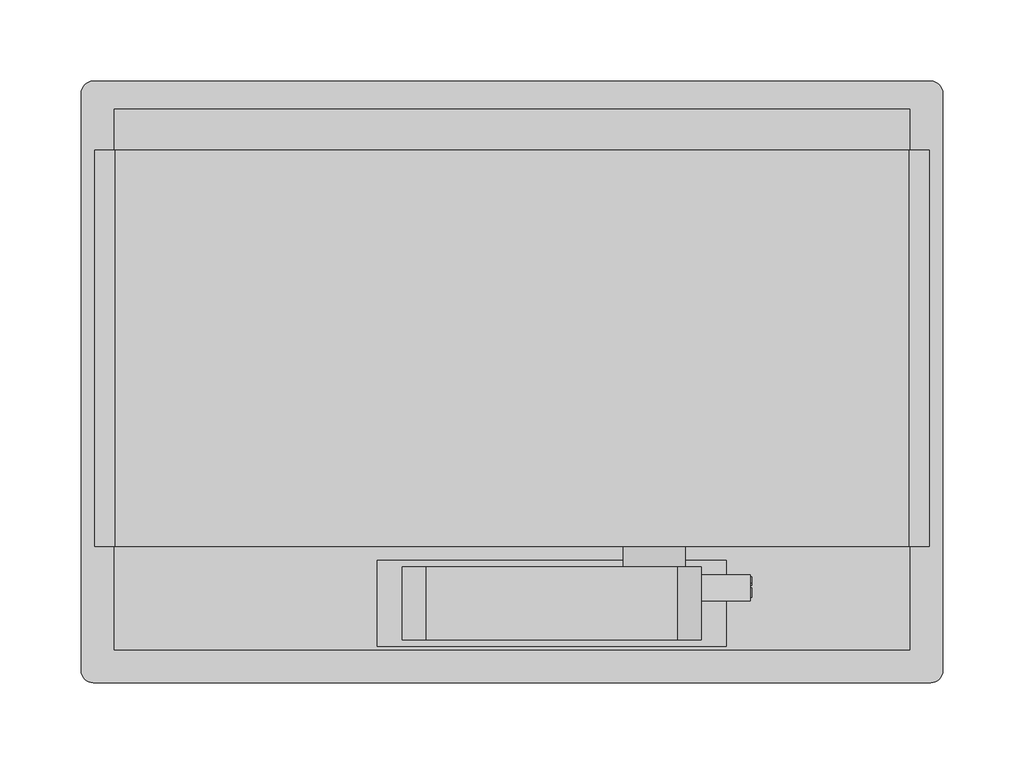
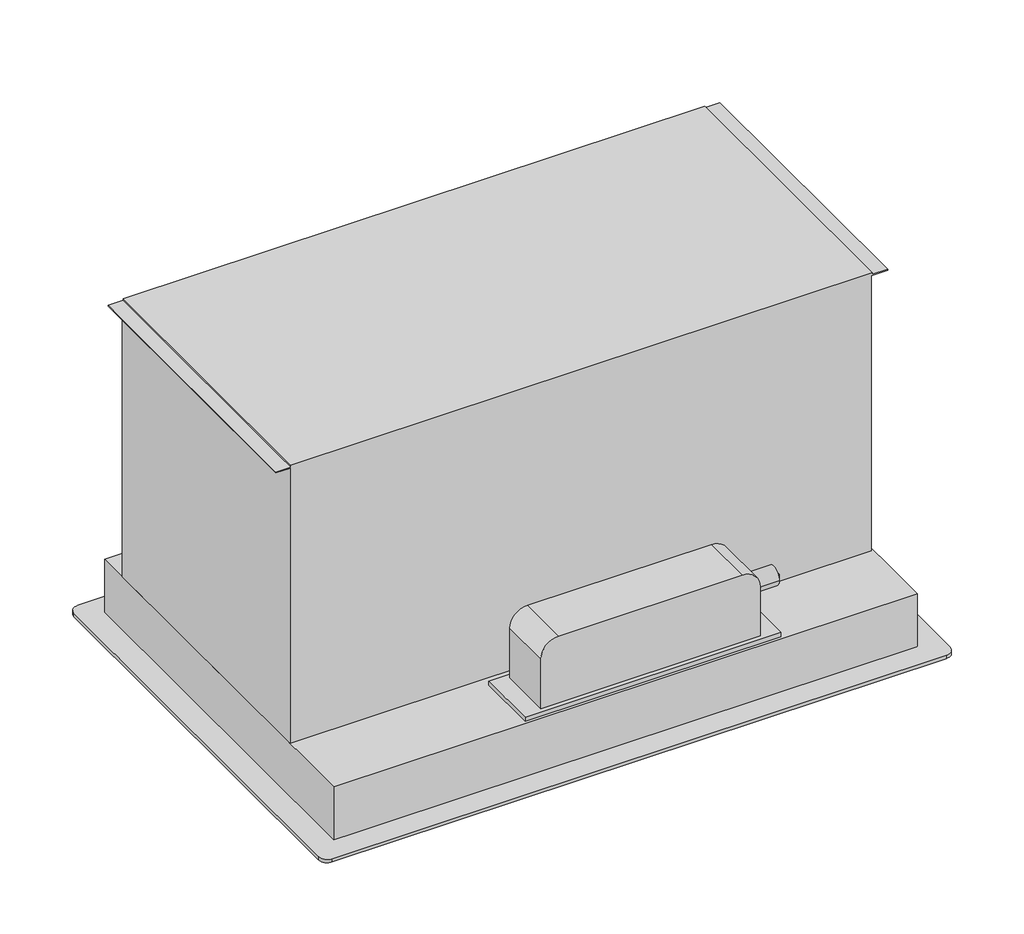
# Not in any storey: 1 proxy.
"""IFC4 building model written with IfcOpenShell, lengths in millimetres."""

import ifcopenshell
import ifcopenshell.guid

model = None  # the IFC model being written
_history = None  # IfcOwnerHistory: only IFC2X3 demands one
_inside = {}  # id of a spatial element -> (the spatial element, [elements in it])
_under = {}  # id of a project, library or spatial element -> (it, [spatial elements below it])
_declared = {}  # id of a project -> (the project, [libraries it declares])
_typed = {}  # id of a type object -> (the type object, [elements of that type])
_made_of = {}  # id of a material, layer set ... -> (it, [elements and type objects made of it])


def new_model(schema):
    """Start an empty IFC model of exactly this schema.

    Asked for "IFC4X3", IfcOpenShell would pick the latest addendum, in which some entities
    have other attributes; the version numbers below select the first issue.
    IFC2X3 requires an IfcOwnerHistory on every rooted entity: one is made here for all.
    """
    global model, _history
    if schema == "IFC4X3":
        model = ifcopenshell.file(schema_version=(4, 3, 0, 0))
    else:
        model = ifcopenshell.file(schema=schema)
    _inside.clear()
    _under.clear()
    _declared.clear()
    _typed.clear()
    _made_of.clear()
    _history = None
    if model.schema == "IFC2X3":
        org = make("IfcOrganization", Name="unknown")
        user = make(
            "IfcPersonAndOrganization",
            ThePerson=make("IfcPerson", FamilyName="unknown"),
            TheOrganization=org,
        )
        app = make(
            "IfcApplication",
            ApplicationDeveloper=org,
            Version="unknown",
            ApplicationFullName="unknown",
            ApplicationIdentifier="unknown",
        )
        _history = make(
            "IfcOwnerHistory",
            OwningUser=user,
            OwningApplication=app,
            ChangeAction="ADDED",
            CreationDate=0,
        )
    return model


def make(cls, **values):
    """One entity of the class cls with the attributes given. An attribute that is None is left unset."""
    return model.create_entity(
        cls, **{name: value for name, value in values.items() if value is not None}
    )


def rooted(cls, **values):
    """An entity with a GlobalId (a new one), such as an element, a storey or a relation."""
    return make(cls, GlobalId=ifcopenshell.guid.new(), OwnerHistory=_history, **values)


def si_unit(unit_type, name, prefix=None):
    """IfcSIUnit, for example si_unit("LENGTHUNIT", "METRE", prefix="MILLI")."""
    return make("IfcSIUnit", UnitType=unit_type, Prefix=prefix, Name=name)


def assignment(units):
    """IfcUnitAssignment: the units of a project."""
    return None if units is None else make("IfcUnitAssignment", Units=units)


def point(xyz):
    """IfcCartesianPoint."""
    return None if xyz is None else make("IfcCartesianPoint", Coordinates=xyz)


def direction(xyz):
    """IfcDirection."""
    return None if xyz is None else make("IfcDirection", DirectionRatios=xyz)


def frame(location, z_axis=None, x_axis=None):
    """IfcAxis2Placement3D, a coordinate frame: its origin and axes. An axis left out is left unset."""
    return make(
        "IfcAxis2Placement3D",
        Location=point(location),
        Axis=direction(z_axis),
        RefDirection=direction(x_axis),
    )


def frame_2d(location, x_axis=None):
    """IfcAxis2Placement2D, a coordinate frame in the plane: its origin and x axis."""
    return make(
        "IfcAxis2Placement2D", Location=point(location), RefDirection=direction(x_axis)
    )


def origin():
    """The frame at (0, 0, 0) with its axes left unset."""
    return frame((0.0, 0.0, 0.0))


def origin_with_axes():
    """The frame at (0, 0, 0) with the z axis (0, 0, 1) and the x axis (1, 0, 0) written out."""
    return frame((0.0, 0.0, 0.0), z_axis=(0.0, 0.0, 1.0), x_axis=(1.0, 0.0, 0.0))


def place(relative_to, where):
    """IfcLocalPlacement: puts the frame where relative to a parent placement (None: the world)."""
    return make(
        "IfcLocalPlacement", PlacementRelTo=relative_to, RelativePlacement=where
    )


def context(
    kind, dimensions, precision=None, world=None, true_north=None, identifier=None
):
    """IfcGeometricRepresentationContext, for example the 3D "Model" context."""
    return make(
        "IfcGeometricRepresentationContext",
        ContextIdentifier=identifier,
        ContextType=kind,
        CoordinateSpaceDimension=dimensions,
        Precision=precision,
        WorldCoordinateSystem=world,
        TrueNorth=true_north,
    )


def project(units=None, contexts=None):
    """IfcProject with its units and contexts."""
    return rooted(
        "IfcProject",
        Name="project",
        RepresentationContexts=contexts,
        UnitsInContext=assignment(units),
    )


def spatial(cls, under=None, at=None, **own):
    """A site, building, storey or space (cls), placed at a placement, below another one or the project."""
    s = rooted(cls, ObjectPlacement=at, **own)
    if under is not None:
        _under.setdefault(under.id(), (under, []))[1].append(s)
    return s


def polyline(points):
    """IfcPolyline through the points."""
    return make("IfcPolyline", Points=[point(p) for p in points])


def circle_curve(where, radius):
    """IfcCircle in the frame where."""
    return make("IfcCircle", Position=where, Radius=radius)


def ellipse_curve(where, semi_axis1, semi_axis2):
    """IfcEllipse in the frame where."""
    return make(
        "IfcEllipse", Position=where, SemiAxis1=semi_axis1, SemiAxis2=semi_axis2
    )


def trimmed(basis, trim1, trim2, sense, master):
    """IfcTrimmedCurve: the piece of a basis curve between two trims."""
    return make(
        "IfcTrimmedCurve",
        BasisCurve=basis,
        Trim1=trim1,
        Trim2=trim2,
        SenseAgreement=sense,
        MasterRepresentation=master,
    )


def segment(curve, same_sense, transition):
    """IfcCompositeCurveSegment."""
    return make(
        "IfcCompositeCurveSegment",
        Transition=transition,
        SameSense=same_sense,
        ParentCurve=curve,
    )


def composite_curve(segments, self_intersect=None):
    """IfcCompositeCurve: segments joined end to end."""
    return make("IfcCompositeCurve", Segments=segments, SelfIntersect=self_intersect)


def outline(outer, holes=None, kind="AREA"):
    """IfcArbitraryClosedProfileDef: a profile drawn as a closed curve; with holes, ...WithVoids."""
    if holes is None:
        return make("IfcArbitraryClosedProfileDef", ProfileType=kind, OuterCurve=outer)
    return make(
        "IfcArbitraryProfileDefWithVoids",
        ProfileType=kind,
        OuterCurve=outer,
        InnerCurves=holes,
    )


def extrude(swept, where, along, depth):
    """IfcExtrudedAreaSolid: the profile swept, set in the frame where, extruded along a direction by depth."""
    return make(
        "IfcExtrudedAreaSolid",
        SweptArea=swept,
        Position=where,
        ExtrudedDirection=direction(along),
        Depth=depth,
    )


def faces_of(points, faces, orient=None, outer=None):
    """IfcFace entities. A face is a list of loops; a loop is a list of indices into points, from 0.

    orient and outer hold one flag for each loop. By default every Orientation is true, the
    first loop of a face is its IfcFaceOuterBound and the others are IfcFaceBound.
    """
    made = []
    for i, loops in enumerate(faces):
        bounds = []
        for j, loop in enumerate(loops):
            is_outer = j == 0 if outer is None else outer[i][j]
            bounds.append(
                make(
                    "IfcFaceOuterBound" if is_outer else "IfcFaceBound",
                    Bound=make("IfcPolyLoop", Polygon=[points[k] for k in loop]),
                    Orientation=True if orient is None else orient[i][j],
                )
            )
        made.append(make("IfcFace", Bounds=bounds))
    return made


def faceted_brep(points, faces, orient=None, outer=None, voids=None):
    """IfcFacetedBrep: a solid bounded by flat faces; with voids (closed shells), ...WithVoids."""
    shared = [point(p) for p in points]
    hull = make("IfcClosedShell", CfsFaces=faces_of(shared, faces, orient, outer))
    if voids is None:
        return make("IfcFacetedBrep", Outer=hull)
    return make(
        "IfcFacetedBrepWithVoids",
        Outer=hull,
        Voids=[
            make(cls, CfsFaces=faces_of(shared, fs, o, b)) for cls, fs, o, b in voids
        ],
    )


def shape(context_of_items, identifier, shape_type, items):
    """IfcShapeRepresentation: the items that make up one representation, for example the "Body"."""
    return make(
        "IfcShapeRepresentation",
        ContextOfItems=context_of_items,
        RepresentationIdentifier=identifier,
        RepresentationType=shape_type,
        Items=items,
    )


def source(mapping_origin, context_of_items, identifier, shape_type, items):
    """IfcRepresentationMap: a shape defined once, which mapped items show again and again."""
    return make(
        "IfcRepresentationMap",
        MappingOrigin=mapping_origin,
        MappedRepresentation=shape(context_of_items, identifier, shape_type, items),
    )


def transform(
    local_origin,
    x_axis=None,
    y_axis=None,
    z_axis=None,
    scale=None,
    scale2=None,
    scale3=None,
    uniform=True,
):
    """IfcCartesianTransformationOperator3D, or its non-uniform kind. x_axis, y_axis, z_axis: its Axis1, 2, 3."""
    if uniform:
        return make(
            "IfcCartesianTransformationOperator3D",
            Axis1=direction(x_axis),
            Axis2=direction(y_axis),
            LocalOrigin=point(local_origin),
            Scale=scale,
            Axis3=direction(z_axis),
        )
    return make(
        "IfcCartesianTransformationOperator3DnonUniform",
        Axis1=direction(x_axis),
        Axis2=direction(y_axis),
        LocalOrigin=point(local_origin),
        Scale=scale,
        Axis3=direction(z_axis),
        Scale2=scale2,
        Scale3=scale3,
    )


def mapped(mapping_source, mapping_target):
    """IfcMappedItem: shows the shape of a source again, moved by a transform."""
    return make(
        "IfcMappedItem", MappingSource=mapping_source, MappingTarget=mapping_target
    )


def made_of(thing, what):
    """Note that an element or type object is made of a material, layer set ...; save() writes the relation."""
    if what is not None:
        _made_of.setdefault(what.id(), (what, []))[1].append(thing)
    return thing


def element(
    cls,
    number,
    at=None,
    inside=None,
    cuts=None,
    type_object=None,
    material=None,
    context=None,
    identifier="Body",
    shape_type=None,
    held_by="IfcProductDefinitionShape",
    body=None,
    shapes=None,
    **own,
):
    """One element of the class cls, such as IfcWall. Its Tag is "e" and its number.

    at: its placement. inside: the storey or other place that contains it. cuts: it is an
    opening in that element (IfcRelVoidsElement). A single representation is given by context,
    identifier, shape_type and body (its items); several are given by shapes. held_by: the class
    of the entity that holds the representations. save() writes the other relations.
    """
    e = rooted(cls, Tag="e%d" % number, ObjectPlacement=at, **own)
    if body is not None:
        shapes = [shape(context, identifier, shape_type, body)]
    if shapes is not None:
        e.Representation = make(held_by, Representations=shapes)
    if inside is not None:
        _inside.setdefault(inside.id(), (inside, []))[1].append(e)
    if cuts is not None:
        rooted(
            "IfcRelVoidsElement", RelatingBuildingElement=cuts, RelatedOpeningElement=e
        )
    if type_object is not None:
        _typed.setdefault(type_object.id(), (type_object, []))[1].append(e)
    return made_of(e, material)


def aggregate(whole, parts):
    """IfcRelAggregates: a whole, such as a stair, and the parts it consists of."""
    return rooted("IfcRelAggregates", RelatingObject=whole, RelatedObjects=parts)


def save(model, path):
    """Write the relations noted so far, then the file.

    IfcRelAggregates (storeys below a building ...), IfcRelContainedInSpatialStructure (elements
    in a storey), IfcRelDefinesByType, IfcRelAssociatesMaterial and IfcRelDeclares: one each for
    every whole, place, type object, material and project.
    """
    for whole, parts in _under.values():
        aggregate(whole, parts)
    for where, things in _inside.values():
        rooted(
            "IfcRelContainedInSpatialStructure",
            RelatedElements=things,
            RelatingStructure=where,
        )
    for kind, things in _typed.values():
        rooted("IfcRelDefinesByType", RelatedObjects=things, RelatingType=kind)
    for what, things in _made_of.values():
        rooted("IfcRelAssociatesMaterial", RelatedObjects=things, RelatingMaterial=what)
    for by, libraries in _declared.values():
        rooted("IfcRelDeclares", RelatingContext=by, RelatedDefinitions=libraries)
    model.write(path)


def plane_surface(at):
    """IfcPlane: the flat surface through the origin of the frame at, square to its z axis."""
    return make("IfcPlane", Position=at)


def cylinder_surface(at, radius):
    """IfcCylindricalSurface: all points at the distance radius from the z axis of the frame at."""
    return make("IfcCylindricalSurface", Position=at, Radius=radius)


def revolved_surface(curve, axis_point, axis_direction):
    """IfcSurfaceOfRevolution: the curve turned about the line through axis_point along axis_direction."""
    return make(
        "IfcSurfaceOfRevolution",
        SweptCurve=make("IfcArbitraryOpenProfileDef", ProfileType="CURVE", Curve=curve),
        AxisPosition=make("IfcAxis1Placement", Location=point(axis_point), Axis=direction(axis_direction)),
    )


def extruded_surface(curve, direction_of_extrusion, depth):
    """IfcSurfaceOfLinearExtrusion: the curve pushed along a direction by depth."""
    return make(
        "IfcSurfaceOfLinearExtrusion",
        SweptCurve=make("IfcArbitraryOpenProfileDef", ProfileType="CURVE", Curve=curve),
        ExtrudedDirection=direction(direction_of_extrusion),
        Depth=depth,
    )


def advanced_brep(points, edges, surfaces, faces):
    """IfcAdvancedBrep: a solid bounded by faces that lie on surfaces and meet in shared edges.

    An edge is (start, end): straight between two places in points (the first is 0);
    or (start, end, curve); or (start, end, curve, False) where it runs against its curve.
    A face is (place in surfaces, loops), or (place, loops, False) where it looks against
    its surface's normal. A loop lists edges by number (the first is 1), with a minus sign
    where the edge is run from its end to its start. The first loop is the outer one.
    """
    corners = [point(p) for p in points]
    vertices = [make("IfcVertexPoint", VertexGeometry=c) for c in corners]
    made = []
    for start, end, *more in edges:
        made.append(
            make(
                "IfcEdgeCurve",
                EdgeStart=vertices[start],
                EdgeEnd=vertices[end],
                EdgeGeometry=more[0] if more else make("IfcPolyline", Points=[corners[start], corners[end]]),
                SameSense=more[1] if len(more) > 1 else True,
            )
        )
    hull = []
    for where, loops, *sense in faces:
        bounds = []
        for j, loop in enumerate(loops):
            ring = [make("IfcOrientedEdge", EdgeElement=made[abs(k) - 1], Orientation=k > 0) for k in loop]
            bounds.append(
                make(
                    "IfcFaceOuterBound" if j == 0 else "IfcFaceBound",
                    Bound=make("IfcEdgeLoop", EdgeList=ring),
                    Orientation=True,
                )
            )
        hull.append(make("IfcAdvancedFace", Bounds=bounds, FaceSurface=surfaces[where], SameSense=sense[0] if sense else True))
    return make("IfcAdvancedBrep", Outer=make("IfcClosedShell", CfsFaces=hull))


def specialty_equipment_5ccbf462(model_context):
    return source(origin(), model_context, "Body", "SolidModel", [
        extrude(outline(polyline([(-225.7941321, -333.5484139), (-224.8261321, -333.5484139), (-224.8261321, -328.1964139), (-225.7941321, -328.1964139), (-225.7941321, -326.8524139), (-222.2741321, -326.8524139), (-222.2741321, -328.1964139), (-223.2341321, -328.1964139), (-223.2341321, -331.5995386), (-219.6581321, -326.8524139), (-216.0661321, -331.6676362), (-216.0661321, -328.1964139), (-217.0501321, -328.1964139), (-217.0501321, -326.8524139), (-210.6661321, -326.8524139), (-210.6661321, -328.1964139), (-211.6821321, -328.1964139), (-211.6821321, -333.5484139), (-210.6661321, -333.5484139), (-210.6661321, -334.8524139), (-215.5381321, -334.8524139), (-217.8741321, -331.8524139), (-220.2181321, -334.8524139), (-225.7941321, -334.8524139), (-225.7941321, -333.5484139)])), frame((0.0, 0.0, 1.5), z_axis=(0.0, 0.0, 1.0), x_axis=(1.0, 0.0, 0.0)), (0.0, 0.0, 1.0), 1.0),
        extrude(outline(polyline([(-193.3301321, -333.5484139), (-192.3701321, -333.5484139), (-192.3701321, -328.1964139), (-193.3301321, -328.1964139), (-193.3301321, -326.8524139), (-186.8421321, -326.8524139), (-186.8421321, -328.1964139), (-187.8261321, -328.1964139), (-187.8261321, -334.8524139), (-193.3301321, -334.8524139), (-193.3301321, -333.5484139)])), frame((0.0, 0.0, 1.5), z_axis=(0.0, 0.0, 1.0), x_axis=(1.0, 0.0, 0.0)), (0.0, 0.0, 1.0), 1.0),
        extrude(outline(polyline([(-207.8741321, -334.3804139), (-207.2661321, -333.0844139), (-204.5541321, -334.3484139), (-205.1541321, -335.6444139), (-207.8741321, -334.3804139)])), frame((0.0, 0.0, 1.5), z_axis=(0.0, 0.0, 1.0), x_axis=(1.0, 0.0, 0.0)), (0.0, 0.0, 1.0), 1.0),
        extrude(outline(polyline([(-209.8501321, -332.9084139), (-209.8501321, -331.4764139), (-208.8981321, -331.4764139), (-208.8981321, -328.1964139), (-209.8501321, -328.1964139), (-209.8501321, -326.8524139), (-203.5381321, -326.8524139), (-203.5381321, -328.1964139), (-204.4661321, -328.1964139), (-204.4661321, -332.9084139), (-209.8501321, -332.9084139)])), frame((0.0, 0.0, 1.5), z_axis=(0.0, 0.0, 1.0), x_axis=(1.0, 0.0, 0.0)), (0.0, 0.0, 1.0), 1.0),
        advanced_brep(
        [(-199.1301321, -328.7484139, 2.5), (-198.2341321, -327.8524139, 2.5), (-196.3301321, -328.7484139, 2.5), (-193.9141321, -328.7484139, 2.5), (-200.8901321, -326.8524139, 2.5), (-203.0901321, -329.5564139, 2.5), (-193.7781321, -329.5564139, 2.5), (-199.1301321, -329.5564139, 2.5), (-199.1301321, -330.5804139, 2.5), (-197.7621321, -330.5804139, 2.5), (-197.7621321, -331.4524139, 2.5), (-199.1301321, -331.4524139, 2.5), (-199.1301321, -328.7484139, 1.5), (-199.1301321, -329.5564139, 1.5), (-193.7781321, -329.5564139, 1.5), (-203.0901321, -329.5564139, 1.5), (-200.8901321, -326.8524139, 1.5), (-193.9141321, -328.7484139, 1.5), (-196.3301321, -328.7484139, 1.5), (-198.2341321, -327.8524139, 1.5), (-199.1301321, -330.5804139, 1.5), (-199.1301321, -331.4524139, 1.5), (-197.7621321, -331.4524139, 1.5), (-197.7621321, -330.5804139, 1.5)],
        [
            (0, 1, circle_curve(frame((-198.2341321, -328.7484139, 2.5), z_axis=(0.0, 0.0, -1.0), x_axis=(1.0, 0.0, 0.0)), 0.896)),
            (1, 2, circle_curve(frame((-197.8430733, -329.4924139, 2.5), z_axis=(0.0, 0.0, -1.0), x_axis=(1.0, 0.0, 0.0)), 1.6859795)),
            (2, 3),
            (3, 4, circle_curve(frame((-198.5273385, -331.9404139, 2.5), z_axis=(0.0, 0.0, 1.0), x_axis=(1.0, 0.0, 0.0)), 5.6098607)),
            (4, 5, circle_curve(frame((-199.9940885, -329.8284139, 2.5), z_axis=(0.0, 0.0, 1.0), x_axis=(1.0, 0.0, 0.0)), 3.1079688)),
            (5, 6, ellipse_curve(frame((-198.4341321, -329.5564139, 2.5), z_axis=(0.0, 0.0, 1.0), x_axis=(-1.0, 0.0, 0.0)), 4.656, 3.848)),
            (6, 7),
            (7, 0),
            (8, 9),
            (9, 10),
            (10, 11, circle_curve(frame((-198.4461321, -331.4524139, 2.5), z_axis=(0.0, 0.0, -1.0), x_axis=(1.0, 0.0, 0.0)), 0.684)),
            (11, 8),
            (12, 13),
            (13, 14),
            (14, 15, ellipse_curve(frame((-198.4341321, -329.5564139, 1.5), z_axis=(0.0, 0.0, -1.0), x_axis=(-1.0, 0.0, 0.0)), 4.656, 3.848)),
            (15, 16, circle_curve(frame((-199.9940885, -329.8284139, 1.5), z_axis=(0.0, 0.0, -1.0), x_axis=(1.0, 0.0, 0.0)), 3.1079688)),
            (16, 17, circle_curve(frame((-198.5273385, -331.9404139, 1.5), z_axis=(0.0, 0.0, -1.0), x_axis=(1.0, 0.0, 0.0)), 5.6098607)),
            (17, 18),
            (18, 19, circle_curve(frame((-197.8430733, -329.4924139, 1.5), z_axis=(0.0, 0.0, 1.0), x_axis=(1.0, 0.0, 0.0)), 1.6859795)),
            (19, 12, circle_curve(frame((-198.2341321, -328.7484139, 1.5), z_axis=(0.0, 0.0, 1.0), x_axis=(1.0, 0.0, 0.0)), 0.896)),
            (20, 21),
            (21, 22, circle_curve(frame((-198.4461321, -331.4524139, 1.5), z_axis=(0.0, 0.0, 1.0), x_axis=(1.0, 0.0, 0.0)), 0.684)),
            (22, 23),
            (23, 20),
            (7, 13),
            (12, 0),
            (6, 14),
            (2, 18),
            (17, 3),
            (5, 15),
            (1, 19),
            (4, 16),
            (11, 21),
            (20, 8),
            (10, 22),
            (9, 23),
        ],
        [
            plane_surface(frame((-197.3381321, -328.7484139, 2.5), z_axis=(0.0, 0.0, 1.0), x_axis=(0.0, -1.0, 0.0))),
            plane_surface(frame((-197.3381321, -328.7484139, 1.5), z_axis=(0.0, 0.0, -1.0), x_axis=(0.0, 1.0, 0.0))),
            plane_surface(frame((-199.1301321, -329.5564139, 2.5), z_axis=(1.0, 0.0, 0.0), x_axis=(0.0, 0.0, -1.0))),
            plane_surface(frame((-193.7781321, -329.5564139, 2.5), z_axis=(0.0, 1.0, 0.0), x_axis=(0.0, 0.0, -1.0))),
            plane_surface(frame((-196.3301321, -328.7484139, 2.5), z_axis=(0.0, -1.0, 0.0), x_axis=(0.0, 0.0, -1.0))),
            extruded_surface(trimmed(ellipse_curve(frame((-198.4341321, -329.5564139, 0.5), z_axis=(0.0, 0.0, 1.0), x_axis=(-1.0, 0.0, 0.0)), 4.656, 3.848), [point((-203.0901321, -329.5564139, 0.5))], [point((-193.7781321, -329.5564139, 0.5))], True, "CARTESIAN"), (0.0, 0.0, 1.0), 1.0),
            revolved_surface(polyline([(-196.15709379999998, -329.4924139, 1.5), (-196.15709379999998, -329.4924139, 2.5)]), (-197.8430733, -329.4924139, 1.5), (0.0, 0.0, -1.0)),
            revolved_surface(polyline([(-197.33813210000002, -328.7484139, 1.5), (-197.33813210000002, -328.7484139, 2.5)]), (-198.2341321, -328.7484139, 1.5), (0.0, 0.0, -1.0)),
            cylinder_surface(frame((-199.9940885, -329.8284139, 1.5), z_axis=(0.0, 0.0, 1.0), x_axis=(1.0, 0.0, 0.0)), 3.1079688),
            cylinder_surface(frame((-198.5273385, -331.9404139, 1.5), z_axis=(0.0, 0.0, 1.0), x_axis=(1.0, 0.0, 0.0)), 5.6098607),
            plane_surface(frame((-199.1301321, -331.4524139, 2.5), z_axis=(1.0, 0.0, 0.0), x_axis=(0.0, 0.0, -1.0))),
            revolved_surface(polyline([(-197.7621321, -331.4524139, 1.5), (-197.7621321, -331.4524139, 2.5)]), (-198.4461321, -331.4524139, 1.5), (0.0, 0.0, -1.0)),
            plane_surface(frame((-197.7621321, -330.5804139, 2.5), z_axis=(-1.0, 0.0, 0.0), x_axis=(0.0, 0.0, -1.0))),
            plane_surface(frame((-199.1301321, -330.5804139, 2.5), z_axis=(0.0, -1.0, 0.0), x_axis=(0.0, 0.0, -1.0))),
        ],
        [
            (0, [[1, 2, 3, 4, 5, 6, 7, 8], [9, 10, 11, 12]]),
            (1, [[13, 14, 15, 16, 17, 18, 19, 20], [21, 22, 23, 24]]),
            (2, [[-8, 25, -13, 26]]),
            (3, [[-7, 27, -14, -25]]),
            (4, [[-3, 28, -18, 29]]),
            (5, [[-6, 30, -15, -27]]),
            (6, [[-2, 31, -19, -28]]),
            (7, [[-1, -26, -20, -31]]),
            (8, [[-5, 32, -16, -30]]),
            (9, [[-4, -29, -17, -32]]),
            (10, [[-12, 33, -21, 34]]),
            (11, [[-11, 35, -22, -33]]),
            (12, [[-10, 36, -23, -35]]),
            (13, [[-9, -34, -24, -36]]),
        ],
    ),
        advanced_brep(
        [(-182.4341321, -328.7484139, 2.5), (-181.5381321, -327.8524139, 2.5), (-179.6341321, -328.7484139, 2.5), (-177.2181321, -328.7484139, 2.5), (-184.1941321, -326.8524139, 2.5), (-186.3941321, -329.5564139, 2.5), (-177.0821321, -329.5564139, 2.5), (-182.4341321, -329.5564139, 2.5), (-182.4341321, -330.5804139, 2.5), (-181.0661321, -330.5804139, 2.5), (-181.0661321, -331.4524139, 2.5), (-182.4341321, -331.4524139, 2.5), (-182.4341321, -328.7484139, 1.5), (-182.4341321, -329.5564139, 1.5), (-177.0821321, -329.5564139, 1.5), (-186.3941321, -329.5564139, 1.5), (-184.1941321, -326.8524139, 1.5), (-177.2181321, -328.7484139, 1.5), (-179.6341321, -328.7484139, 1.5), (-181.5381321, -327.8524139, 1.5), (-182.4341321, -330.5804139, 1.5), (-182.4341321, -331.4524139, 1.5), (-181.0661321, -331.4524139, 1.5), (-181.0661321, -330.5804139, 1.5)],
        [
            (0, 1, circle_curve(frame((-181.5381321, -328.7484139, 2.5), z_axis=(0.0, 0.0, -1.0), x_axis=(1.0, 0.0, 0.0)), 0.896)),
            (1, 2, circle_curve(frame((-181.1470733, -329.4924139, 2.5), z_axis=(0.0, 0.0, -1.0), x_axis=(1.0, 0.0, 0.0)), 1.6859795)),
            (2, 3),
            (3, 4, circle_curve(frame((-181.8313385, -331.9404139, 2.5), z_axis=(0.0, 0.0, 1.0), x_axis=(1.0, 0.0, 0.0)), 5.6098607)),
            (4, 5, circle_curve(frame((-183.2980885, -329.8284139, 2.5), z_axis=(0.0, 0.0, 1.0), x_axis=(1.0, 0.0, 0.0)), 3.1079688)),
            (5, 6, ellipse_curve(frame((-181.7381321, -329.5564139, 2.5), z_axis=(0.0, 0.0, 1.0), x_axis=(-1.0, 0.0, 0.0)), 4.656, 3.848)),
            (6, 7),
            (7, 0),
            (8, 9),
            (9, 10),
            (10, 11, circle_curve(frame((-181.7501321, -331.4524139, 2.5), z_axis=(0.0, 0.0, -1.0), x_axis=(1.0, 0.0, 0.0)), 0.684)),
            (11, 8),
            (12, 13),
            (13, 14),
            (14, 15, ellipse_curve(frame((-181.7381321, -329.5564139, 1.5), z_axis=(0.0, 0.0, -1.0), x_axis=(-1.0, 0.0, 0.0)), 4.656, 3.848)),
            (15, 16, circle_curve(frame((-183.2980885, -329.8284139, 1.5), z_axis=(0.0, 0.0, -1.0), x_axis=(1.0, 0.0, 0.0)), 3.1079688)),
            (16, 17, circle_curve(frame((-181.8313385, -331.9404139, 1.5), z_axis=(0.0, 0.0, -1.0), x_axis=(1.0, 0.0, 0.0)), 5.6098607)),
            (17, 18),
            (18, 19, circle_curve(frame((-181.1470733, -329.4924139, 1.5), z_axis=(0.0, 0.0, 1.0), x_axis=(1.0, 0.0, 0.0)), 1.6859795)),
            (19, 12, circle_curve(frame((-181.5381321, -328.7484139, 1.5), z_axis=(0.0, 0.0, 1.0), x_axis=(1.0, 0.0, 0.0)), 0.896)),
            (20, 21),
            (21, 22, circle_curve(frame((-181.7501321, -331.4524139, 1.5), z_axis=(0.0, 0.0, 1.0), x_axis=(1.0, 0.0, 0.0)), 0.684)),
            (22, 23),
            (23, 20),
            (7, 13),
            (12, 0),
            (6, 14),
            (2, 18),
            (17, 3),
            (5, 15),
            (1, 19),
            (4, 16),
            (11, 21),
            (20, 8),
            (10, 22),
            (9, 23),
        ],
        [
            plane_surface(frame((-180.6421321, -328.7484139, 2.5), z_axis=(0.0, 0.0, 1.0), x_axis=(0.0, -1.0, 0.0))),
            plane_surface(frame((-180.6421321, -328.7484139, 1.5), z_axis=(0.0, 0.0, -1.0), x_axis=(0.0, 1.0, 0.0))),
            plane_surface(frame((-182.4341321, -329.5564139, 2.5), z_axis=(1.0, 0.0, 0.0), x_axis=(0.0, 0.0, -1.0))),
            plane_surface(frame((-177.0821321, -329.5564139, 2.5), z_axis=(0.0, 1.0, 0.0), x_axis=(0.0, 0.0, -1.0))),
            plane_surface(frame((-179.6341321, -328.7484139, 2.5), z_axis=(0.0, -1.0, 0.0), x_axis=(0.0, 0.0, -1.0))),
            extruded_surface(trimmed(ellipse_curve(frame((-181.7381321, -329.5564139, 0.5), z_axis=(0.0, 0.0, 1.0), x_axis=(-1.0, 0.0, 0.0)), 4.656, 3.848), [point((-186.3941321, -329.5564139, 0.5))], [point((-177.0821321, -329.5564139, 0.5))], True, "CARTESIAN"), (0.0, 0.0, 1.0), 1.0),
            revolved_surface(polyline([(-179.4610938, -329.4924139, 1.5), (-179.4610938, -329.4924139, 2.5)]), (-181.1470733, -329.4924139, 1.5), (0.0, 0.0, -1.0)),
            revolved_surface(polyline([(-180.64213210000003, -328.7484139, 1.5), (-180.64213210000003, -328.7484139, 2.5)]), (-181.5381321, -328.7484139, 1.5), (0.0, 0.0, -1.0)),
            cylinder_surface(frame((-183.2980885, -329.8284139, 1.5), z_axis=(0.0, 0.0, 1.0), x_axis=(1.0, 0.0, 0.0)), 3.1079688),
            cylinder_surface(frame((-181.8313385, -331.9404139, 1.5), z_axis=(0.0, 0.0, 1.0), x_axis=(1.0, 0.0, 0.0)), 5.6098607),
            plane_surface(frame((-182.4341321, -331.4524139, 2.5), z_axis=(1.0, 0.0, 0.0), x_axis=(0.0, 0.0, -1.0))),
            revolved_surface(polyline([(-181.0661321, -331.4524139, 1.5), (-181.0661321, -331.4524139, 2.5)]), (-181.7501321, -331.4524139, 1.5), (0.0, 0.0, -1.0)),
            plane_surface(frame((-181.0661321, -330.5804139, 2.5), z_axis=(-1.0, 0.0, 0.0), x_axis=(0.0, 0.0, -1.0))),
            plane_surface(frame((-182.4341321, -330.5804139, 2.5), z_axis=(0.0, -1.0, 0.0), x_axis=(0.0, 0.0, -1.0))),
        ],
        [
            (0, [[1, 2, 3, 4, 5, 6, 7, 8], [9, 10, 11, 12]]),
            (1, [[13, 14, 15, 16, 17, 18, 19, 20], [21, 22, 23, 24]]),
            (2, [[-8, 25, -13, 26]]),
            (3, [[-7, 27, -14, -25]]),
            (4, [[-3, 28, -18, 29]]),
            (5, [[-6, 30, -15, -27]]),
            (6, [[-2, 31, -19, -28]]),
            (7, [[-1, -26, -20, -31]]),
            (8, [[-5, 32, -16, -30]]),
            (9, [[-4, -29, -17, -32]]),
            (10, [[-12, 33, -21, 34]]),
            (11, [[-11, 35, -22, -33]]),
            (12, [[-10, 36, -23, -35]]),
            (13, [[-9, -34, -24, -36]]),
        ],
    ),
        extrude(outline(polyline([(296.5, 244.25), (296.5, -244.25), (295.0, -244.25), (295.0, -256.9500122), (294.2000122, -256.9500122), (294.2000122, -245.0), (50.0, -245.0), (50.0, 243.5), (294.2000122, 243.5), (294.2000122, 257.0), (295.0, 257.0), (295.0, 244.25), (296.5, 244.25)])), frame((0.0, -286.6999947, 0.0), z_axis=(0.0, 1.0, 0.0), x_axis=(0.0, 0.0, 1.0)), (0.0, 0.0, 1.0), 244.0999947),
        extrude(outline(composite_curve([segment(polyline([(112.6984177, 101.6984177), (112.6984177, -52.7015762)]), True, "CONTINUOUS"), segment(trimmed(circle_curve(frame_2d((97.6999969, -52.7015762)), 14.9984207), [point((112.6984177, -52.7015762))], [point((97.6999969, -67.6999969))], False, "CARTESIAN"), True, "CONTINUOUS"), segment(polyline([(97.6999969, -67.6999969), (53.7, -67.6999969), (53.7, 116.6984177), (97.6984177, 116.6984177)]), True, "CONTINUOUS"), segment(trimmed(circle_curve(frame_2d((97.6984177, 101.6984177)), 15.0), [point((97.6984177, 116.6984177))], [point((112.6984177, 101.6984177))], False, "CARTESIAN"), True, "CONTINUOUS")], self_intersect=False)), frame((0.0, -344.3834171, 0.0), z_axis=(0.0, 1.0, 0.0), x_axis=(0.0, 0.0, 1.0)), (0.0, 0.0, 1.0), 45.0),
        advanced_brep(
        [(131.9981079, -295.3834171, 50.0), (131.9981079, -295.3834171, 53.7), (131.9981079, -348.1834049, 53.7), (131.9981079, -348.1834049, 50.0), (-82.9981079, -295.3834171, 50.0), (-82.9981079, -348.1834049, 50.0), (-82.9981079, -348.1834049, 53.7), (-82.9981079, -295.3834171, 53.7), (106.5986328, -295.3834171, 50.0), (106.5986328, -295.3834171, 53.7), (68.6110001, -295.3834171, 53.7), (68.6110001, -295.3834171, 50.0), (106.5986328, -299.3834171, 53.7), (68.6110001, -299.3834171, 53.7), (106.5986328, -286.6999947, 57.0), (106.5986328, -286.6999947, 50.0), (68.6110001, -286.6999947, 50.0), (68.6110001, -286.6999947, 57.0), (106.5986328, -299.3834171, 57.0), (68.6110001, -299.3834171, 57.0)],
        [
            (0, 1),
            (1, 2),
            (2, 3),
            (3, 0),
            (4, 5),
            (5, 6),
            (6, 7),
            (7, 4),
            (0, 8),
            (8, 9),
            (9, 1),
            (7, 10),
            (10, 11),
            (11, 4),
            (9, 12),
            (12, 13),
            (13, 10),
            (6, 2),
            (5, 3),
            (14, 15),
            (15, 16),
            (16, 17),
            (17, 14, circle_curve(frame((87.6048164, -286.6999947, 57.0), z_axis=(0.0, 1.0, 0.0), x_axis=(1.0, 0.0, 0.0)), 18.9938164)),
            (18, 19, circle_curve(frame((87.6048164, -299.3834171, 57.0), z_axis=(0.0, -1.0, 0.0), x_axis=(1.0, 0.0, 0.0)), 18.9938164)),
            (19, 13),
            (12, 18),
            (17, 19),
            (18, 14),
            (16, 11),
            (15, 8),
        ],
        [
            plane_surface(frame((131.9981079, -295.3834171, 50.0), z_axis=(1.0, 0.0, 0.0), x_axis=(0.0, 0.0, 1.0))),
            plane_surface(frame((-82.9981079, -295.3834171, 50.0), z_axis=(-1.0, 0.0, 0.0), x_axis=(0.0, 0.0, -1.0))),
            plane_surface(frame((131.9981079, -295.3834171, 50.0), z_axis=(0.0, 1.0, 0.0), x_axis=(-1.0, 0.0, 0.0))),
            plane_surface(frame((131.9981079, -295.3834171, 53.7), z_axis=(0.0, 0.0, 1.0), x_axis=(-1.0, 0.0, 0.0))),
            plane_surface(frame((131.9981079, -348.1834049, 53.7), z_axis=(0.0, -1.0, 0.0), x_axis=(-1.0, 0.0, 0.0))),
            plane_surface(frame((106.5986328, -286.6999947, 57.0), z_axis=(0.0, 1.0, 0.0), x_axis=(0.0, 0.0, -1.0))),
            plane_surface(frame((106.5986328, -299.3834171, 57.0), z_axis=(0.0, -1.0, 0.0), x_axis=(0.0, 0.0, 1.0))),
            cylinder_surface(frame((87.6048164, -286.6999947, 57.0), z_axis=(0.0, -1.0, 0.0), x_axis=(1.0, 0.0, 0.0)), 18.9938164),
            plane_surface(frame((68.6110001, -299.3834171, 57.0), z_axis=(-1.0, 0.0, 0.0), x_axis=(0.0, 1.0, 0.0))),
            plane_surface(frame((68.6110001, -299.3834171, 50.0), z_axis=(0.0, 0.0, -1.0), x_axis=(0.0, 1.0, 0.0))),
            plane_surface(frame((106.5986328, -299.3834171, 50.0), z_axis=(1.0, 0.0, 0.0), x_axis=(0.0, 1.0, 0.0))),
        ],
        [
            (0, [[1, 2, 3, 4]]),
            (1, [[5, 6, 7, 8]]),
            (2, [[-1, 9, 10, 11]]),
            (2, [[-8, 12, 13, 14]]),
            (3, [[-2, -11, 15, 16, 17, -12, -7, 18]]),
            (4, [[-3, -18, -6, 19]]),
            (5, [[20, 21, 22, 23]]),
            (6, [[24, 25, -16, 26]]),
            (7, [[-23, 27, -24, 28]]),
            (8, [[-22, 29, -13, -17, -25, -27]]),
            (9, [[-21, 30, -9, -4, -19, -5, -14, -29]]),
            (10, [[-20, -28, -26, -15, -10, -30]]),
        ],
    ),
        extrude(outline(composite_curve([segment(trimmed(circle_curve(frame_2d((-312.191771, 77.5001221)), 8.0), [point((-320.191771, 77.5001221))], [point((-304.191771, 77.5001221))], False, "CARTESIAN"), True, "CONTINUOUS"), segment(trimmed(circle_curve(frame_2d((-312.191771, 77.5001221)), 8.0), [point((-304.191771, 77.5001221))], [point((-320.191771, 77.5001221))], False, "CARTESIAN"), True, "CONTINUOUS")], self_intersect=False)), frame((116.6984177, 0.0, 0.0), z_axis=(1.0, 0.0, 0.0), x_axis=(0.0, 1.0, 0.0)), (0.0, 0.0, 1.0), 30.0),
        extrude(outline(polyline([(-318.0935792, 73.5001221), (-318.0935792, 81.5366269), (-312.3173414, 81.5366269), (-312.3173414, 80.5320638), (-317.0890161, 80.5320638), (-317.0890161, 78.1462264), (-312.5684822, 78.1462264), (-312.5684822, 77.1416633), (-317.0890161, 77.1416633), (-317.0890161, 74.5046852), (-312.191771, 74.5046852), (-312.191771, 73.5001221), (-318.0935792, 73.5001221)])), frame((146.6984177, 0.0, 0.0), z_axis=(1.0, 0.0, 0.0), x_axis=(0.0, 1.0, 0.0)), (0.0, 0.0, 1.0), 1.0),
        extrude(outline(polyline([(-310.6849264, 73.5001221), (-310.6849264, 81.5366269), (-309.6803633, 81.5366269), (-309.6803633, 74.5046852), (-305.6621108, 74.5046852), (-305.6621108, 73.5001221), (-310.6849264, 73.5001221)])), frame((146.6984177, 0.0, 0.0), z_axis=(1.0, 0.0, 0.0), x_axis=(0.0, 1.0, 0.0)), (0.0, 0.0, 1.0), 1.0),
        faceted_brep([(245.0, -350.3834171, 2.5), (245.0, -17.3834171, 2.5), (245.0, -17.3834171, 50.0), (245.0, -350.3834171, 50.0), (-245.0, -350.3834171, 2.5), (-245.0, -350.3834171, 50.0), (-245.0, -17.3834171, 50.0), (-245.0, -17.3834171, 2.5), (244.25, -274.3553407, 2.5), (244.25, -21.1834171, 2.5), (-244.25, -21.1834171, 2.5), (-244.25, -274.3553407, 2.5), (126.5, -284.1834049, 2.5), (-126.5, -284.1834049, 2.5), (-126.5, -313.5834293, 2.5), (126.5, -313.5834293, 2.5), (-26.0999985, -324.9834232, 2.5), (-52.25, -324.9834232, 2.5), (-52.25, -337.1834049, 2.5), (-26.0999985, -337.1834049, 2.5), (-25.9147568, -337.1834049, 2.5), (25.9148577, -337.1834049, 2.5), (25.9148577, -324.9834232, 2.5), (-25.9147568, -324.9834232, 2.5), (26.1018654, -337.1834049, 2.5), (52.25, -337.1834049, 2.5), (52.25, -324.9834232, 2.5), (26.1018654, -324.9834232, 2.5), (244.25, -274.3553407, 48.1919471), (244.25, -21.1834171, 48.1919471), (-244.25, -21.1834171, 48.1919471), (-244.25, -274.3553407, 48.1919471), (126.5, -284.1834049, 48.1919471), (-126.5, -284.1834049, 48.1919471), (-126.5, -313.5834293, 48.1919471), (126.5, -313.5834293, 48.1919471), (-26.0999985, -324.9834232, 0.9177094), (-26.0999985, -337.1834049, 0.9177094), (-52.25, -337.1834049, 0.9177094), (-52.25, -324.9834232, 0.9177094), (-25.9147568, -337.1834049, 0.9177094), (-25.9147568, -324.9834232, 0.9177094), (25.9148577, -324.9834232, 0.9177094), (25.9148577, -337.1834049, 0.9177094), (26.1018654, -337.1834049, 0.9177094), (26.1018654, -324.9834232, 0.9177094), (52.25, -324.9834232, 0.9177094), (52.25, -337.1834049, 0.9177094)], [[[0, 1, 2, 3]], [[4, 5, 6, 7]], [[1, 0, 4, 7], [8, 9, 10, 11], [12, 13, 14, 15], [16, 17, 18, 19], [20, 21, 22, 23], [24, 25, 26, 27]], [[2, 1, 7, 6]], [[3, 2, 6, 5]], [[0, 3, 5, 4]], [[28, 29, 9, 8]], [[29, 30, 10, 9]], [[30, 31, 11, 10]], [[31, 28, 8, 11]], [[32, 33, 13, 12]], [[33, 34, 14, 13]], [[34, 35, 15, 14]], [[35, 32, 12, 15]], [[36, 37, 38, 39]], [[40, 41, 42, 43]], [[44, 45, 46, 47]], [[36, 39, 17, 16]], [[39, 38, 18, 17]], [[38, 37, 19, 18]], [[37, 36, 16, 19]], [[40, 43, 21, 20]], [[43, 42, 22, 21]], [[42, 41, 23, 22]], [[41, 40, 20, 23]], [[44, 47, 25, 24]], [[47, 46, 26, 25]], [[46, 45, 27, 26]], [[45, 44, 24, 27]], [[28, 31, 30, 29]], [[32, 35, 34, 33]]]),
        extrude(outline(polyline([(243.25, -21.8834171), (243.25, -271.8834171), (-243.1999969, -271.8834171), (-243.1999969, -21.8834171), (243.25, -21.8834171)]), holes=[polyline([(234.25, -30.8834171), (-234.25, -30.8834171), (-234.25, -262.8834171), (234.25, -262.8834171), (234.25, -30.8834171)])]), frame((0.0, 0.0, 3.1099722), z_axis=(0.0, 0.0, 1.0), x_axis=(1.0, 0.0, 0.0)), (0.0, 0.0, 1.0), 9.0573642),
        extrude(outline(composite_curve([segment(trimmed(circle_curve(frame_2d((257.8734131, -7.5)), 7.5), [point((257.8734131, 0.0))], [point((265.3734131, -7.5))], False, "CARTESIAN"), True, "CONTINUOUS"), segment(polyline([(265.3734131, -7.5), (265.3734131, -363.26684)]), True, "CONTINUOUS"), segment(trimmed(circle_curve(frame_2d((257.8734131, -363.26684)), 7.5), [point((265.3734131, -363.26684))], [point((257.8734131, -370.76684))], False, "CARTESIAN"), True, "CONTINUOUS"), segment(polyline([(257.8734131, -370.76684), (-257.8734131, -370.76684)]), True, "CONTINUOUS"), segment(trimmed(circle_curve(frame_2d((-257.8734131, -363.26684)), 7.5), [point((-257.8734131, -370.76684))], [point((-265.3734131, -363.26684))], False, "CARTESIAN"), True, "CONTINUOUS"), segment(polyline([(-265.3734131, -363.26684), (-265.3734131, -7.5)]), True, "CONTINUOUS"), segment(trimmed(circle_curve(frame_2d((-257.8734131, -7.5)), 7.5), [point((-265.3734131, -7.5))], [point((-257.8734131, 0.0))], False, "CARTESIAN"), True, "CONTINUOUS"), segment(polyline([(-257.8734131, 0.0), (257.8734131, 0.0)]), True, "CONTINUOUS")], self_intersect=False), holes=[polyline([(245.0, -350.3834171), (245.0, -17.3834171), (-245.0, -17.3834171), (-245.0, -350.3834171), (245.0, -350.3834171)])]), origin_with_axes(), (0.0, 0.0, 1.0), 2.9999745),
        extrude(outline(polyline([(126.5, -284.1834049), (126.5, -313.5834293), (-126.5, -313.5834293), (-126.5, -284.1834049), (126.5, -284.1834049)]), holes=[polyline([(119.0, -292.6334171), (-119.0, -292.6334171), (-119.0, -305.1334171), (119.0, -305.1334171), (119.0, -292.6334171)])]), frame((0.0, 0.0, 2.8), z_axis=(0.0, 0.0, 1.0), x_axis=(1.0, 0.0, 0.0)), (0.0, 0.0, 1.0), 1.5000002),
        extrude(outline(polyline([(119.0, -292.6334171), (119.0, -305.1334171), (-119.0, -305.1334171), (-119.0, -292.6334171), (119.0, -292.6334171)])), frame((0.0, 0.0, 2.8), z_axis=(0.0, 0.0, 1.0), x_axis=(1.0, 0.0, 0.0)), (0.0, 0.0, 1.0), 1.5000002),
        faceted_brep([(234.25, -30.8834171, 12.1673365), (-234.25, -30.8834171, 12.1673365), (-234.25, -262.8834171, 12.1673365), (234.25, -262.8834171, 12.1673365), (234.25, -30.8834171, 5.609972), (234.25, -262.8834171, 5.609972), (16.5, -262.8834171, 5.609972), (16.5, -219.8834171, 5.609972), (-16.5, -219.8834171, 5.609972), (-16.5, -262.8834171, 5.609972), (-234.25, -262.8834171, 5.609972), (-234.25, -30.8834171, 5.609972), (10.1999998, -227.861948, 5.609972), (10.1999998, -256.783411, 5.609972), (-10.1999998, -256.783411, 5.609972), (-10.1999998, -227.861948, 5.609972), (-16.5, -262.8834171, 4.609972), (16.5, -262.8834171, 4.609972), (16.5, -219.8834171, 4.609972), (-16.5, -219.8834171, 4.609972), (10.1999998, -227.861948, 4.609972), (-10.1999998, -227.861948, 4.609972), (-10.1999998, -256.783411, 4.609972), (10.1999998, -256.783411, 4.609972)], [[[0, 1, 2, 3]], [[4, 5, 6, 7, 8, 9, 10, 11]], [[12, 13, 14, 15]], [[1, 0, 4, 11]], [[2, 1, 11, 10]], [[3, 2, 10, 9, 16, 17, 6, 5]], [[0, 3, 5, 4]], [[18, 17, 16, 19], [20, 21, 22, 23]], [[18, 19, 8, 7]], [[19, 16, 9, 8]], [[17, 18, 7, 6]], [[20, 23, 13, 12]], [[23, 22, 14, 13]], [[22, 21, 15, 14]], [[21, 20, 12, 15]]]),
        extrude(outline(polyline([(10.1999998, -236.4387302), (10.1999998, -256.783411), (-10.1999998, -256.783411), (-10.1999998, -236.4387302), (10.1999998, -236.4387302)])), frame((0.0, 0.0, 4.7647753), z_axis=(0.0, 0.0, 1.0), x_axis=(1.0, 0.0, 0.0)), (0.0, 0.0, 1.0), 0.8451967),
    ])


model = new_model("IFC4")

# Units and contexts
model_context = context("Model", 3, world=origin())
ifc_project = project(units=[si_unit("LENGTHUNIT", "METRE", prefix="MILLI")], contexts=[model_context])

# Site, building
site = spatial("IfcSite", under=ifc_project)
building = spatial("IfcBuilding", under=site)

# Proxy
placement = place(None, origin())
specialty_equipment_shape = specialty_equipment_5ccbf462(model_context)
element("IfcBuildingElementProxy", 1, Name="12821040_NER_DAE1530_EDST : 28E1530S_NER_12821040_DAE1530_EDST", ObjectType="12821040_NER_DAE1530_EDST : 28E1530S_NER_12821040_DAE1530_EDST", at=placement, inside=building, context=model_context, shape_type="MappedRepresentation", body=[
    mapped(specialty_equipment_shape, transform((0.0, 0.0, 0.0), x_axis=(1.0, 0.0, 0.0), y_axis=(0.0, 1.0, 0.0), z_axis=(0.0, 0.0, 1.0))),
])

save(model, "model.ifc")
